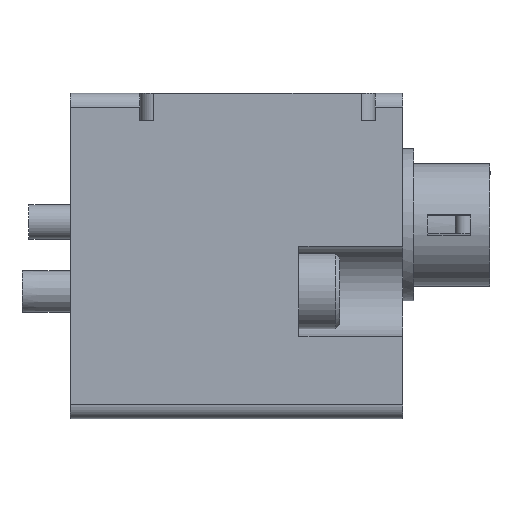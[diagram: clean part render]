
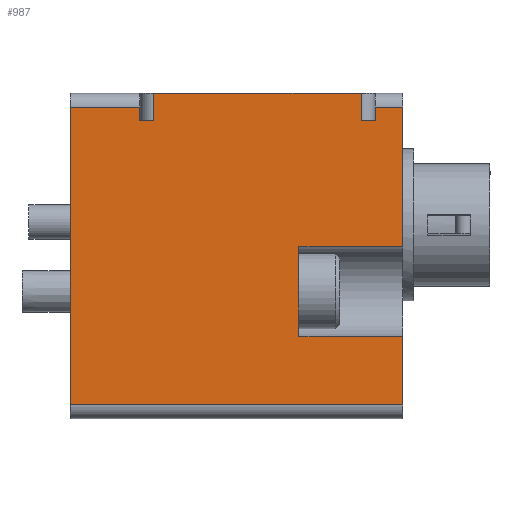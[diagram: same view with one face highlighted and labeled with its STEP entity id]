
A CAD part, left-side view. The second image highlights one B-rep face of the part: STEP entity #987.
In plain terms, the highlighted planar face has unit normal (-1, 0, 0).
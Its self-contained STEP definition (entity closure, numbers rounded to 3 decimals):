
#987=ADVANCED_FACE('',(#2628),#2629,.F.);
#2628=FACE_OUTER_BOUND('',#4921,.T.);
#2629=PLANE('',#4922);
#4921=EDGE_LOOP('',(#8390,#8391,#8392,#8393,#8394,#8395,#8396,#8397,#8398,#8399,#8400,#8401,#8402,#8403,#8404,#8405));
#4922=AXIS2_PLACEMENT_3D('',#8406,#8407,#8408);
#8390=ORIENTED_EDGE('',*,*,#12277,.T.);
#8391=ORIENTED_EDGE('',*,*,#12036,.T.);
#8392=ORIENTED_EDGE('',*,*,#12205,.T.);
#8393=ORIENTED_EDGE('',*,*,#12319,.F.);
#8394=ORIENTED_EDGE('',*,*,#12303,.T.);
#8395=ORIENTED_EDGE('',*,*,#11929,.T.);
#8396=ORIENTED_EDGE('',*,*,#12320,.F.);
#8397=ORIENTED_EDGE('',*,*,#12295,.T.);
#8398=ORIENTED_EDGE('',*,*,#12309,.T.);
#8399=ORIENTED_EDGE('',*,*,#11941,.T.);
#8400=ORIENTED_EDGE('',*,*,#12264,.T.);
#8401=ORIENTED_EDGE('',*,*,#12269,.F.);
#8402=ORIENTED_EDGE('',*,*,#12240,.T.);
#8403=ORIENTED_EDGE('',*,*,#12233,.T.);
#8404=ORIENTED_EDGE('',*,*,#12321,.F.);
#8405=ORIENTED_EDGE('',*,*,#12227,.T.);
#8406=CARTESIAN_POINT('',(-16.0,-22.0,-9.2));
#8407=DIRECTION('',(1.0,0.0,0.0));
#8408=DIRECTION('',(0.0,1.0,0.0));
#11929=EDGE_CURVE('',#13233,#13234,#13235,.T.);
#11941=EDGE_CURVE('',#13258,#13256,#13259,.T.);
#12036=EDGE_CURVE('',#13402,#13403,#13404,.T.);
#12205=EDGE_CURVE('',#13403,#13634,#13636,.T.);
#12227=EDGE_CURVE('',#13670,#13668,#13671,.T.);
#12233=EDGE_CURVE('',#13675,#13679,#13681,.T.);
#12240=EDGE_CURVE('',#13690,#13675,#13692,.T.);
#12264=EDGE_CURVE('',#13256,#13723,#13725,.T.);
#12269=EDGE_CURVE('',#13690,#13723,#13730,.T.);
#12277=EDGE_CURVE('',#13668,#13402,#13743,.T.);
#12295=EDGE_CURVE('',#13766,#13768,#13770,.T.);
#12303=EDGE_CURVE('',#13783,#13233,#13784,.T.);
#12309=EDGE_CURVE('',#13768,#13258,#13792,.T.);
#12319=EDGE_CURVE('',#13783,#13634,#13806,.T.);
#12320=EDGE_CURVE('',#13766,#13234,#13807,.T.);
#12321=EDGE_CURVE('',#13670,#13679,#13808,.T.);
#13233=VERTEX_POINT('',#15040);
#13234=VERTEX_POINT('',#15041);
#13235=LINE('',#15042,#15043);
#13256=VERTEX_POINT('',#15070);
#13258=VERTEX_POINT('',#15072);
#13259=LINE('',#15073,#15074);
#13402=VERTEX_POINT('',#15283);
#13403=VERTEX_POINT('',#15284);
#13404=LINE('',#15285,#15286);
#13634=VERTEX_POINT('',#15614);
#13636=LINE('',#15616,#15617);
#13668=VERTEX_POINT('',#15652);
#13670=VERTEX_POINT('',#15654);
#13671=LINE('',#15655,#15656);
#13675=VERTEX_POINT('',#15660);
#13679=VERTEX_POINT('',#15665);
#13681=LINE('',#15667,#15668);
#13690=VERTEX_POINT('',#15679);
#13692=LINE('',#15682,#15683);
#13723=VERTEX_POINT('',#15723);
#13725=LINE('',#15725,#15726);
#13730=LINE('',#15733,#15734);
#13743=LINE('',#15750,#15751);
#13766=VERTEX_POINT('',#15784);
#13768=VERTEX_POINT('',#15787);
#13770=LINE('',#15790,#15791);
#13783=VERTEX_POINT('',#15809);
#13784=LINE('',#15810,#15811);
#13792=LINE('',#15819,#15820);
#13806=LINE('',#15835,#15836);
#13807=LINE('',#15837,#15838);
#13808=LINE('',#15839,#15840);
#15040=CARTESIAN_POINT('',(-16.0,-24.0,-8.2));
#15041=CARTESIAN_POINT('',(-16.0,-24.0,-3.25));
#15042=CARTESIAN_POINT('',(-16.0,-24.0,-9.2));
#15043=VECTOR('',#17304,1.0);
#15070=CARTESIAN_POINT('',(-16.0,-24.0,13.3));
#15072=CARTESIAN_POINT('',(-16.0,-24.0,3.25));
#15073=CARTESIAN_POINT('',(-16.0,-24.0,-9.2));
#15074=VECTOR('',#17326,1.0);
#15283=CARTESIAN_POINT('',(-16.0,-5.0,12.3));
#15284=CARTESIAN_POINT('',(-16.0,-5.0,13.3));
#15285=CARTESIAN_POINT('',(-16.0,-5.0,-9.2));
#15286=VECTOR('',#17411,1.0);
#15614=CARTESIAN_POINT('',(-16.0,0.0,13.3));
#15616=CARTESIAN_POINT('',(-16.0,-5.0,13.3));
#15617=VECTOR('',#17576,1.0);
#15652=CARTESIAN_POINT('',(-16.0,-6.,12.3));
#15654=CARTESIAN_POINT('',(-16.0,-6.,14.3));
#15655=CARTESIAN_POINT('',(-16.0,-6.,12.3));
#15656=VECTOR('',#17610,1.0);
#15660=CARTESIAN_POINT('',(-16.0,-21.0,12.3));
#15665=CARTESIAN_POINT('',(-16.0,-21.0,14.3));
#15667=CARTESIAN_POINT('',(-16.0,-21.0,12.3));
#15668=VECTOR('',#17621,1.0);
#15679=CARTESIAN_POINT('',(-16.0,-22.0,12.3));
#15682=CARTESIAN_POINT('',(-16.0,-22.0,12.3));
#15683=VECTOR('',#17628,1.0);
#15723=CARTESIAN_POINT('',(-16.0,-22.0,13.3));
#15725=CARTESIAN_POINT('',(-16.0,-24.0,13.3));
#15726=VECTOR('',#17665,1.0);
#15733=CARTESIAN_POINT('',(-16.0,-22.0,-9.2));
#15734=VECTOR('',#17668,1.0);
#15750=CARTESIAN_POINT('',(-16.0,-22.0,12.3));
#15751=VECTOR('',#17678,1.0);
#15784=CARTESIAN_POINT('',(-16.0,-16.5,-3.25));
#15787=CARTESIAN_POINT('',(-16.0,-16.5,3.25));
#15790=CARTESIAN_POINT('',(-16.0,-16.5,-3.25));
#15791=VECTOR('',#17697,1.0);
#15809=CARTESIAN_POINT('',(-16.0,0.0,-8.2));
#15810=CARTESIAN_POINT('',(-16.0,-22.0,-8.2));
#15811=VECTOR('',#17703,1.0);
#15819=CARTESIAN_POINT('',(-16.0,-16.5,3.25));
#15820=VECTOR('',#17713,1.0);
#15835=CARTESIAN_POINT('',(-16.0,0.0,-9.2));
#15836=VECTOR('',#17727,1.0);
#15837=CARTESIAN_POINT('',(-16.0,-16.5,-3.25));
#15838=VECTOR('',#17728,1.0);
#15839=CARTESIAN_POINT('',(-16.0,-5.,14.3));
#15840=VECTOR('',#17729,1.0);
#17304=DIRECTION('',(0.0,0.0,1.0));
#17326=DIRECTION('',(0.0,0.0,1.0));
#17411=DIRECTION('',(0.0,0.0,1.0));
#17576=DIRECTION('',(0.0,1.0,0.0));
#17610=DIRECTION('',(0.0,0.0,-1.0));
#17621=DIRECTION('',(0.0,0.0,1.0));
#17628=DIRECTION('',(0.0,1.0,0.0));
#17665=DIRECTION('',(0.0,1.0,0.0));
#17668=DIRECTION('',(0.0,0.0,1.0));
#17678=DIRECTION('',(0.0,1.0,0.0));
#17697=DIRECTION('',(0.0,0.0,1.0));
#17703=DIRECTION('',(0.0,-1.0,0.0));
#17713=DIRECTION('',(0.0,-1.0,0.0));
#17727=DIRECTION('',(0.0,0.0,1.0));
#17728=DIRECTION('',(0.0,-1.0,0.0));
#17729=DIRECTION('',(0.0,-1.0,0.0));
